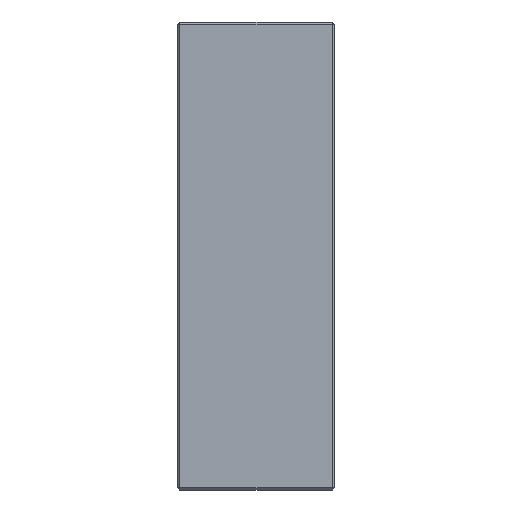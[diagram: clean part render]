
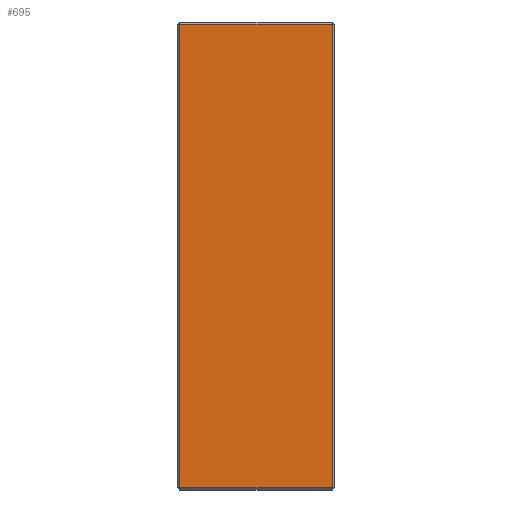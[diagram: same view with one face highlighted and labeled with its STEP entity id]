
A CAD part, left-side view. The second image highlights one B-rep face of the part: STEP entity #695.
In plain terms, the highlighted planar face has unit normal (-1, 0, 0).
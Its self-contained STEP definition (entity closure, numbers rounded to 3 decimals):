
#100 = ORIENTED_EDGE ( 'NONE', *, *, #952, .T. ) ;
#151 = DIRECTION ( 'NONE',  ( 0., -1., 0. ) ) ;
#183 = CARTESIAN_POINT ( 'NONE',  ( -98., 66., -97. ) ) ;
#225 = VERTEX_POINT ( 'NONE', #1322 ) ;
#376 = EDGE_CURVE ( 'NONE', #1061, #1117, #2092, .T. ) ;
#454 = EDGE_CURVE ( 'NONE', #1627, #1061, #1890, .T. ) ;
#557 = DIRECTION ( 'NONE',  ( 0., 0., 1. ) ) ;
#591 = CARTESIAN_POINT ( 'NONE',  ( -98., 1., 98. ) ) ;
#695 = ADVANCED_FACE ( 'NONE', ( #780 ), #2588, .F. ) ;
#780 = FACE_OUTER_BOUND ( 'NONE', #2120, .T. ) ;
#906 = EDGE_CURVE ( 'NONE', #1117, #225, #2594, .T. ) ;
#952 = EDGE_CURVE ( 'NONE', #225, #1627, #2480, .T. ) ;
#1061 = VERTEX_POINT ( 'NONE', #1223 ) ;
#1101 = CARTESIAN_POINT ( 'NONE',  ( -98., 65., 98. ) ) ;
#1117 = VERTEX_POINT ( 'NONE', #1548 ) ;
#1223 = CARTESIAN_POINT ( 'NONE',  ( -98., 65., 97. ) ) ;
#1322 = CARTESIAN_POINT ( 'NONE',  ( -98., 1., -97. ) ) ;
#1548 = CARTESIAN_POINT ( 'NONE',  ( -98., 65., -97. ) ) ;
#1563 = DIRECTION ( 'NONE',  ( 0., 0., -1. ) ) ;
#1571 = AXIS2_PLACEMENT_3D ( 'NONE', #2286, #1776, #2590 ) ;
#1627 = VERTEX_POINT ( 'NONE', #2169 ) ;
#1776 = DIRECTION ( 'NONE',  ( 1., 0., 0. ) ) ;
#1868 = CARTESIAN_POINT ( 'NONE',  ( -98., 66., 97. ) ) ;
#1877 = DIRECTION ( 'NONE',  ( 0., 1., 0. ) ) ;
#1887 = VECTOR ( 'NONE', #1877, 1000. ) ;
#1890 = LINE ( 'NONE', #1868, #1887 ) ;
#2091 = VECTOR ( 'NONE', #1563, 1000. ) ;
#2092 = LINE ( 'NONE', #1101, #2091 ) ;
#2096 = ORIENTED_EDGE ( 'NONE', *, *, #454, .T. ) ;
#2120 = EDGE_LOOP ( 'NONE', ( #2096, #2517, #2403, #100 ) ) ;
#2169 = CARTESIAN_POINT ( 'NONE',  ( -98., 1., 97. ) ) ;
#2286 = CARTESIAN_POINT ( 'NONE',  ( -98., 66., 98. ) ) ;
#2403 = ORIENTED_EDGE ( 'NONE', *, *, #906, .T. ) ;
#2454 = VECTOR ( 'NONE', #557, 1000. ) ;
#2480 = LINE ( 'NONE', #591, #2454 ) ;
#2517 = ORIENTED_EDGE ( 'NONE', *, *, #376, .T. ) ;
#2541 = VECTOR ( 'NONE', #151, 1000. ) ;
#2588 = PLANE ( 'NONE',  #1571 ) ;
#2590 = DIRECTION ( 'NONE',  ( 0., 0., -1. ) ) ;
#2594 = LINE ( 'NONE', #183, #2541 ) ;
